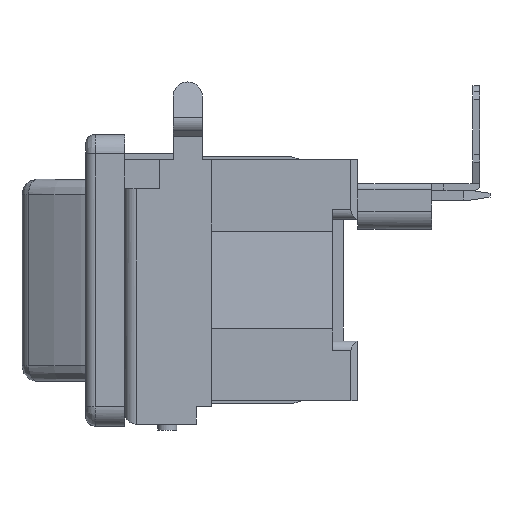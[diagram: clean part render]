
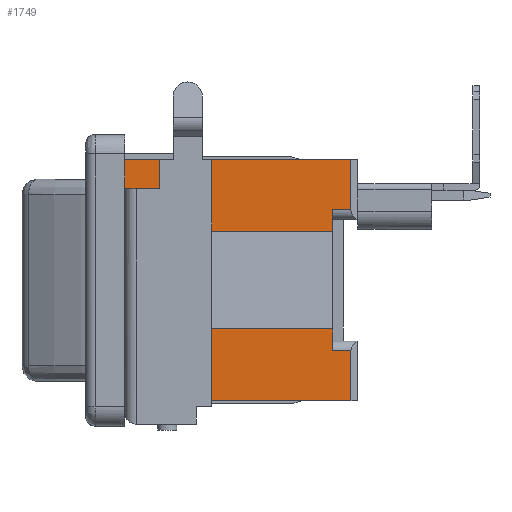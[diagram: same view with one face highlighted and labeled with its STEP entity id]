
A CAD part, left-side view. The second image highlights one B-rep face of the part: STEP entity #1749.
In plain terms, the highlighted planar face has unit normal (-1, 0, 0).
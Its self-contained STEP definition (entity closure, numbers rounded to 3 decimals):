
#1283 = EDGE_CURVE ( 'NONE', #10080, #1284, #6005, .T. ) ;
#1284 = VERTEX_POINT ( 'NONE', #6001 ) ;
#1314 = VERTEX_POINT ( 'NONE', #6151 ) ;
#1316 = EDGE_CURVE ( 'NONE', #1314, #1355, #6150, .T. ) ;
#1320 = EDGE_CURVE ( 'NONE', #1355, #1321, #6140, .T. ) ;
#1321 = VERTEX_POINT ( 'NONE', #6136 ) ;
#1355 = VERTEX_POINT ( 'NONE', #6172 ) ;
#1357 = EDGE_CURVE ( 'NONE', #1441, #10080, #6171, .T. ) ;
#1393 = EDGE_CURVE ( 'NONE', #1321, #1394, #6203, .T. ) ;
#1394 = VERTEX_POINT ( 'NONE', #6199 ) ;
#1441 = VERTEX_POINT ( 'NONE', #6300 ) ;
#1479 = VERTEX_POINT ( 'NONE', #6357 ) ;
#1481 = EDGE_CURVE ( 'NONE', #1479, #1441, #6356, .T. ) ;
#1535 = EDGE_CURVE ( 'NONE', #1284, #1558, #6464, .T. ) ;
#1558 = VERTEX_POINT ( 'NONE', #6445 ) ;
#1735 = ORIENTED_EDGE ( 'NONE', *, *, #1736, .T. ) ;
#1736 = EDGE_CURVE ( 'NONE', #1819, #1737, #6629, .T. ) ;
#1737 = VERTEX_POINT ( 'NONE', #6689 ) ;
#1738 = ORIENTED_EDGE ( 'NONE', *, *, #1739, .T. ) ;
#1739 = EDGE_CURVE ( 'NONE', #1737, #1740, #6688, .T. ) ;
#1740 = VERTEX_POINT ( 'NONE', #6684 ) ;
#1741 = ORIENTED_EDGE ( 'NONE', *, *, #1802, .T. ) ;
#1749 = ADVANCED_FACE ( 'NONE', ( #6669 ), #6668, .F. ) ;
#1750 = EDGE_LOOP ( 'NONE', ( #1751, #1752, #1814, #1815, #1816, #1817, #1735, #1738, #1741, #1803, #1804, #1805 ) ) ;
#1751 = ORIENTED_EDGE ( 'NONE', *, *, #1481, .F. ) ;
#1752 = ORIENTED_EDGE ( 'NONE', *, *, #1753, .F. ) ;
#1753 = EDGE_CURVE ( 'NONE', #1394, #1479, #6663, .T. ) ;
#1802 = EDGE_CURVE ( 'NONE', #1740, #1558, #6758, .T. ) ;
#1803 = ORIENTED_EDGE ( 'NONE', *, *, #1535, .F. ) ;
#1804 = ORIENTED_EDGE ( 'NONE', *, *, #1283, .F. ) ;
#1805 = ORIENTED_EDGE ( 'NONE', *, *, #1357, .F. ) ;
#1814 = ORIENTED_EDGE ( 'NONE', *, *, #1393, .F. ) ;
#1815 = ORIENTED_EDGE ( 'NONE', *, *, #1320, .F. ) ;
#1816 = ORIENTED_EDGE ( 'NONE', *, *, #1316, .F. ) ;
#1817 = ORIENTED_EDGE ( 'NONE', *, *, #1818, .F. ) ;
#1818 = EDGE_CURVE ( 'NONE', #1819, #1314, #6793, .T. ) ;
#1819 = VERTEX_POINT ( 'NONE', #6789 ) ;
#6001 = CARTESIAN_POINT ( 'NONE',  ( -8.5, 11.25, -6.2 ) ) ;
#6002 = DIRECTION ( 'NONE',  ( 0., 1., 0. ) ) ;
#6003 = VECTOR ( 'NONE', #6002, 1000. ) ;
#6004 = CARTESIAN_POINT ( 'NONE',  ( -8.5, 5.427, -6.2 ) ) ;
#6005 = LINE ( 'NONE', #6004, #6003 ) ;
#6136 = CARTESIAN_POINT ( 'NONE',  ( -8.5, 3.25, -2.5 ) ) ;
#6137 = DIRECTION ( 'NONE',  ( 0., 0., -1. ) ) ;
#6138 = VECTOR ( 'NONE', #6137, 1000. ) ;
#6139 = CARTESIAN_POINT ( 'NONE',  ( -8.5, 3.25, 0. ) ) ;
#6140 = LINE ( 'NONE', #6139, #6138 ) ;
#6147 = DIRECTION ( 'NONE',  ( 0., 1., 0. ) ) ;
#6148 = VECTOR ( 'NONE', #6147, 1000. ) ;
#6149 = CARTESIAN_POINT ( 'NONE',  ( -8.5, 5.427, 2.5 ) ) ;
#6150 = LINE ( 'NONE', #6149, #6148 ) ;
#6151 = CARTESIAN_POINT ( 'NONE',  ( -8.5, 0.55, 2.5 ) ) ;
#6168 = DIRECTION ( 'NONE',  ( 0., 0., -1. ) ) ;
#6169 = VECTOR ( 'NONE', #6168, 1000. ) ;
#6170 = CARTESIAN_POINT ( 'NONE',  ( -8.5, -0.396, 0. ) ) ;
#6171 = LINE ( 'NONE', #6170, #6169 ) ;
#6172 = CARTESIAN_POINT ( 'NONE',  ( -8.5, 3.25, 2.5 ) ) ;
#6199 = CARTESIAN_POINT ( 'NONE',  ( -8.5, 0.55, -2.5 ) ) ;
#6200 = DIRECTION ( 'NONE',  ( 0., -1., 0. ) ) ;
#6201 = VECTOR ( 'NONE', #6200, 1000. ) ;
#6202 = CARTESIAN_POINT ( 'NONE',  ( -8.5, 5.427, -2.5 ) ) ;
#6203 = LINE ( 'NONE', #6202, #6201 ) ;
#6300 = CARTESIAN_POINT ( 'NONE',  ( -8.5, -0.396, -3.625 ) ) ;
#6353 = DIRECTION ( 'NONE',  ( 0., -1., 0. ) ) ;
#6354 = VECTOR ( 'NONE', #6353, 1000. ) ;
#6355 = CARTESIAN_POINT ( 'NONE',  ( -8.5, 5.427, -3.625 ) ) ;
#6356 = LINE ( 'NONE', #6355, #6354 ) ;
#6357 = CARTESIAN_POINT ( 'NONE',  ( -8.5, 0.55, -3.625 ) ) ;
#6445 = CARTESIAN_POINT ( 'NONE',  ( -8.5, 11.25, 6.2 ) ) ;
#6461 = DIRECTION ( 'NONE',  ( 0., 0., 1. ) ) ;
#6462 = VECTOR ( 'NONE', #6461, 1000. ) ;
#6463 = CARTESIAN_POINT ( 'NONE',  ( -8.5, 11.25, 0. ) ) ;
#6464 = LINE ( 'NONE', #6463, #6462 ) ;
#6629 = LINE ( 'NONE', #6692, #6691 ) ;
#6660 = DIRECTION ( 'NONE',  ( 0., 0., -1. ) ) ;
#6661 = VECTOR ( 'NONE', #6660, 1000. ) ;
#6662 = CARTESIAN_POINT ( 'NONE',  ( -8.5, 0.55, 0. ) ) ;
#6663 = LINE ( 'NONE', #6662, #6661 ) ;
#6664 = DIRECTION ( 'NONE',  ( 0., 0., 1. ) ) ;
#6665 = DIRECTION ( 'NONE',  ( 1., 0., 0. ) ) ;
#6666 = CARTESIAN_POINT ( 'NONE',  ( -8.5, 11.25, -6.2 ) ) ;
#6667 = AXIS2_PLACEMENT_3D ( 'NONE', #6666, #6665, #6664 ) ;
#6668 = PLANE ( 'NONE',  #6667 ) ;
#6669 = FACE_OUTER_BOUND ( 'NONE', #1750, .T. ) ;
#6684 = CARTESIAN_POINT ( 'NONE',  ( -8.5, -0.396, 6.2 ) ) ;
#6685 = DIRECTION ( 'NONE',  ( 0., 0., 1. ) ) ;
#6686 = VECTOR ( 'NONE', #6685, 1000. ) ;
#6687 = CARTESIAN_POINT ( 'NONE',  ( -8.5, -0.396, 4.664 ) ) ;
#6688 = LINE ( 'NONE', #6687, #6686 ) ;
#6689 = CARTESIAN_POINT ( 'NONE',  ( -8.5, -0.396, 3.625 ) ) ;
#6690 = DIRECTION ( 'NONE',  ( 0., -1., 0. ) ) ;
#6691 = VECTOR ( 'NONE', #6690, 1000. ) ;
#6692 = CARTESIAN_POINT ( 'NONE',  ( -8.5, -0.1, 3.625 ) ) ;
#6755 = DIRECTION ( 'NONE',  ( 0., 1., 0. ) ) ;
#6756 = VECTOR ( 'NONE', #6755, 1000. ) ;
#6757 = CARTESIAN_POINT ( 'NONE',  ( -8.5, 5.25, 6.2 ) ) ;
#6758 = LINE ( 'NONE', #6757, #6756 ) ;
#6789 = CARTESIAN_POINT ( 'NONE',  ( -8.5, 0.55, 3.625 ) ) ;
#6790 = DIRECTION ( 'NONE',  ( 0., 0., -1. ) ) ;
#6791 = VECTOR ( 'NONE', #6790, 1000. ) ;
#6792 = CARTESIAN_POINT ( 'NONE',  ( -8.5, 0.55, 0. ) ) ;
#6793 = LINE ( 'NONE', #6792, #6791 ) ;
#10080 = VERTEX_POINT ( 'NONE', #15964 ) ;
#15964 = CARTESIAN_POINT ( 'NONE',  ( -8.5, -0.396, -6.2 ) ) ;
